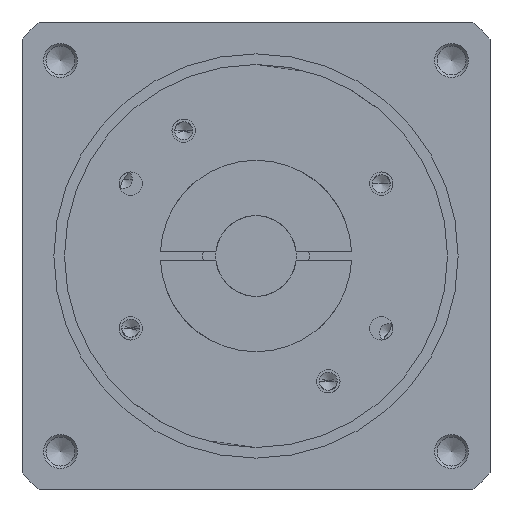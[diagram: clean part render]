
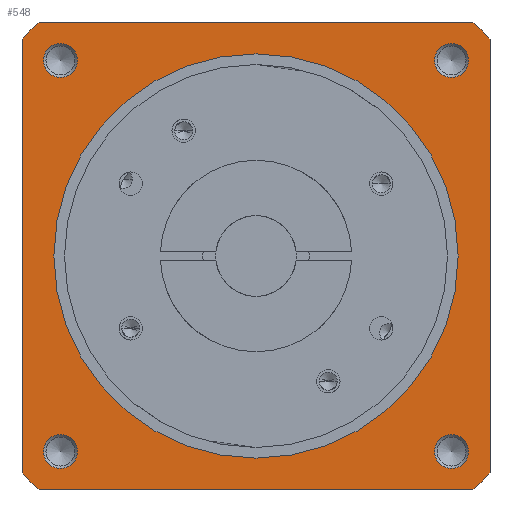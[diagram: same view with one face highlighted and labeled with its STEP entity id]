
A CAD part, front view. The second image highlights one B-rep face of the part: STEP entity #548.
In plain terms, the highlighted planar face has unit normal (0, -1, 0).
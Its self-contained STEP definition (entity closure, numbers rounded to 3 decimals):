
#245=PLANE('',#5003);
#305=FACE_BOUND('',#1181,.T.);
#306=FACE_BOUND('',#1182,.T.);
#307=FACE_BOUND('',#1183,.T.);
#308=FACE_BOUND('',#1184,.T.);
#309=FACE_BOUND('',#1185,.T.);
#310=FACE_BOUND('',#1186,.T.);
#548=ADVANCED_FACE('',(#305,#306,#307,#308,#309,#310),#245,.F.);
#1181=EDGE_LOOP('',(#2172));
#1182=EDGE_LOOP('',(#2173));
#1183=EDGE_LOOP('',(#2174));
#1184=EDGE_LOOP('',(#2175));
#1185=EDGE_LOOP('',(#2176));
#1186=EDGE_LOOP('',(#2177,#2178,#2179,#2180,#2181,#2182,#2183,#2184));
#1556=LINE('',#7290,#1833);
#1557=LINE('',#7295,#1834);
#1558=LINE('',#7299,#1835);
#1559=LINE('',#7303,#1836);
#1833=VECTOR('',#5728,1.);
#1834=VECTOR('',#5731,1.);
#1835=VECTOR('',#5734,1.);
#1836=VECTOR('',#5737,1.);
#2172=ORIENTED_EDGE('',*,*,#3998,.T.);
#2173=ORIENTED_EDGE('',*,*,#3999,.T.);
#2174=ORIENTED_EDGE('',*,*,#4000,.T.);
#2175=ORIENTED_EDGE('',*,*,#4001,.T.);
#2176=ORIENTED_EDGE('',*,*,#4002,.F.);
#2177=ORIENTED_EDGE('',*,*,#4003,.T.);
#2178=ORIENTED_EDGE('',*,*,#4004,.F.);
#2179=ORIENTED_EDGE('',*,*,#4005,.F.);
#2180=ORIENTED_EDGE('',*,*,#4006,.F.);
#2181=ORIENTED_EDGE('',*,*,#4007,.F.);
#2182=ORIENTED_EDGE('',*,*,#4008,.F.);
#2183=ORIENTED_EDGE('',*,*,#4009,.T.);
#2184=ORIENTED_EDGE('',*,*,#4010,.F.);
#3536=VERTEX_POINT('',#7281);
#3537=VERTEX_POINT('',#7283);
#3538=VERTEX_POINT('',#7285);
#3539=VERTEX_POINT('',#7287);
#3540=VERTEX_POINT('',#7289);
#3541=VERTEX_POINT('',#7291);
#3542=VERTEX_POINT('',#7292);
#3543=VERTEX_POINT('',#7294);
#3544=VERTEX_POINT('',#7296);
#3545=VERTEX_POINT('',#7298);
#3546=VERTEX_POINT('',#7300);
#3547=VERTEX_POINT('',#7302);
#3548=VERTEX_POINT('',#7304);
#3998=EDGE_CURVE('',#3536,#3536,#4641,.T.);
#3999=EDGE_CURVE('',#3537,#3537,#4642,.T.);
#4000=EDGE_CURVE('',#3538,#3538,#4643,.T.);
#4001=EDGE_CURVE('',#3539,#3539,#4644,.T.);
#4002=EDGE_CURVE('',#3540,#3540,#4645,.T.);
#4003=EDGE_CURVE('',#3541,#3542,#1556,.T.);
#4004=EDGE_CURVE('',#3543,#3542,#4646,.T.);
#4005=EDGE_CURVE('',#3544,#3543,#1557,.T.);
#4006=EDGE_CURVE('',#3545,#3544,#4647,.T.);
#4007=EDGE_CURVE('',#3546,#3545,#1558,.T.);
#4008=EDGE_CURVE('',#3547,#3546,#4648,.T.);
#4009=EDGE_CURVE('',#3547,#3548,#1559,.T.);
#4010=EDGE_CURVE('',#3541,#3548,#4649,.T.);
#4641=CIRCLE('',#4994,4.);
#4642=CIRCLE('',#4995,4.);
#4643=CIRCLE('',#4996,4.);
#4644=CIRCLE('',#4997,4.);
#4645=CIRCLE('',#4998,47.5);
#4646=CIRCLE('',#4999,75.);
#4647=CIRCLE('',#5000,75.);
#4648=CIRCLE('',#5001,75.);
#4649=CIRCLE('',#5002,75.);
#4994=AXIS2_PLACEMENT_3D('',#7280,#5718,#5719);
#4995=AXIS2_PLACEMENT_3D('',#7282,#5720,#5721);
#4996=AXIS2_PLACEMENT_3D('',#7284,#5722,#5723);
#4997=AXIS2_PLACEMENT_3D('',#7286,#5724,#5725);
#4998=AXIS2_PLACEMENT_3D('',#7288,#5726,#5727);
#4999=AXIS2_PLACEMENT_3D('',#7293,#5729,#5730);
#5000=AXIS2_PLACEMENT_3D('',#7297,#5732,#5733);
#5001=AXIS2_PLACEMENT_3D('',#7301,#5735,#5736);
#5002=AXIS2_PLACEMENT_3D('',#7305,#5738,#5739);
#5003=AXIS2_PLACEMENT_3D('',#7306,#5740,#5741);
#5718=DIRECTION('',(0.,1.,0.));
#5719=DIRECTION('',(0.,0.,1.));
#5720=DIRECTION('',(0.,1.,0.));
#5721=DIRECTION('',(0.,0.,1.));
#5722=DIRECTION('',(0.,1.,0.));
#5723=DIRECTION('',(0.,0.,1.));
#5724=DIRECTION('',(0.,1.,0.));
#5725=DIRECTION('',(0.,0.,1.));
#5726=DIRECTION('',(0.,-1.,0.));
#5727=DIRECTION('',(0.,0.,1.));
#5728=DIRECTION('',(-1.,0.,0.));
#5729=DIRECTION('',(0.,1.,0.));
#5730=DIRECTION('',(0.,0.,1.));
#5731=DIRECTION('',(0.,0.,1.));
#5732=DIRECTION('',(0.,1.,0.));
#5733=DIRECTION('',(0.,0.,1.));
#5734=DIRECTION('',(-1.,0.,0.));
#5735=DIRECTION('',(0.,1.,0.));
#5736=DIRECTION('',(0.,0.,1.));
#5737=DIRECTION('',(0.,0.,1.));
#5738=DIRECTION('',(0.,1.,0.));
#5739=DIRECTION('',(0.,0.,1.));
#5740=DIRECTION('',(0.,1.,0.));
#5741=DIRECTION('',(0.,0.,1.));
#7280=CARTESIAN_POINT('',(-45.962,-17.,-45.962));
#7281=CARTESIAN_POINT('',(-45.962,-17.,-41.962));
#7282=CARTESIAN_POINT('',(-45.962,-17.,45.962));
#7283=CARTESIAN_POINT('',(-45.962,-17.,49.962));
#7284=CARTESIAN_POINT('',(45.962,-17.,45.962));
#7285=CARTESIAN_POINT('',(45.962,-17.,49.962));
#7286=CARTESIAN_POINT('',(45.962,-17.,-45.962));
#7287=CARTESIAN_POINT('',(45.962,-17.,-41.962));
#7288=CARTESIAN_POINT('',(0.,-17.,0.));
#7289=CARTESIAN_POINT('',(0.,-17.,47.5));
#7290=CARTESIAN_POINT('',(0.,-17.,55.));
#7291=CARTESIAN_POINT('',(50.99,-17.,55.));
#7292=CARTESIAN_POINT('',(-50.99,-17.,55.));
#7293=CARTESIAN_POINT('',(0.,-17.,0.));
#7294=CARTESIAN_POINT('',(-55.,-17.,50.99));
#7295=CARTESIAN_POINT('',(-55.,-17.,0.));
#7296=CARTESIAN_POINT('',(-55.,-17.,-50.99));
#7297=CARTESIAN_POINT('',(0.,-17.,0.));
#7298=CARTESIAN_POINT('',(-50.99,-17.,-55.));
#7299=CARTESIAN_POINT('',(0.,-17.,-55.));
#7300=CARTESIAN_POINT('',(50.99,-17.,-55.));
#7301=CARTESIAN_POINT('',(0.,-17.,0.));
#7302=CARTESIAN_POINT('',(55.,-17.,-50.99));
#7303=CARTESIAN_POINT('',(55.,-17.,0.));
#7304=CARTESIAN_POINT('',(55.,-17.,50.99));
#7305=CARTESIAN_POINT('',(0.,-17.,0.));
#7306=CARTESIAN_POINT('',(0.,-17.,0.));
